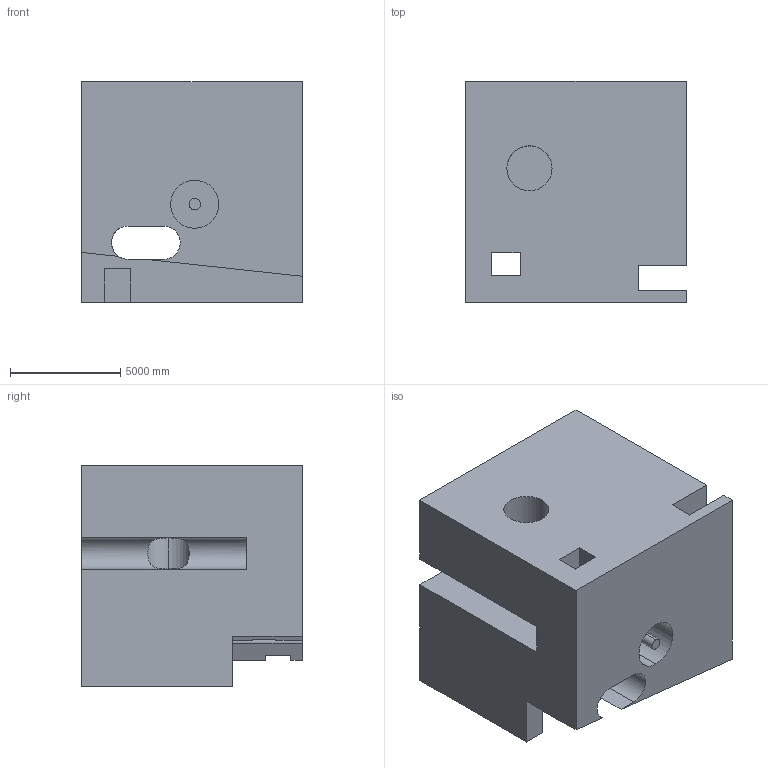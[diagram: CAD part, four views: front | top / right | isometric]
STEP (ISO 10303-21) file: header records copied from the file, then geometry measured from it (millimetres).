
FILE_DESCRIPTION (( 'STEP AP203' ), '1' );
FILE_NAME ('166.STEP', '2022-08-31T12:05:30', ( 'user' ), ( '' ), 'SwSTEP 2.0', 'SolidWorks 2021', '' );
FILE_SCHEMA (( 'CONFIG_CONTROL_DESIGN' ));
Length unit declared in the file: centimetre
Products named in the file (1): 166
Bounding box: 10000 x 10000 x 10000 mm (x, y, z)
Volume: 799688327508.1 mm3; surface area: 848876501.9 mm2
Topology: 1 solids, 1 shells, 43 faces, 120 edges, 80 vertices
Faces by surface type: plane 33, cylinder 10
Entity records: 1821 total; most frequent: CARTESIAN_POINT 605, ORIENTED_EDGE 240, DIRECTION 227, EDGE_CURVE 120, LINE 97, VECTOR 97, VERTEX_POINT 80, AXIS2_PLACEMENT_3D 65
